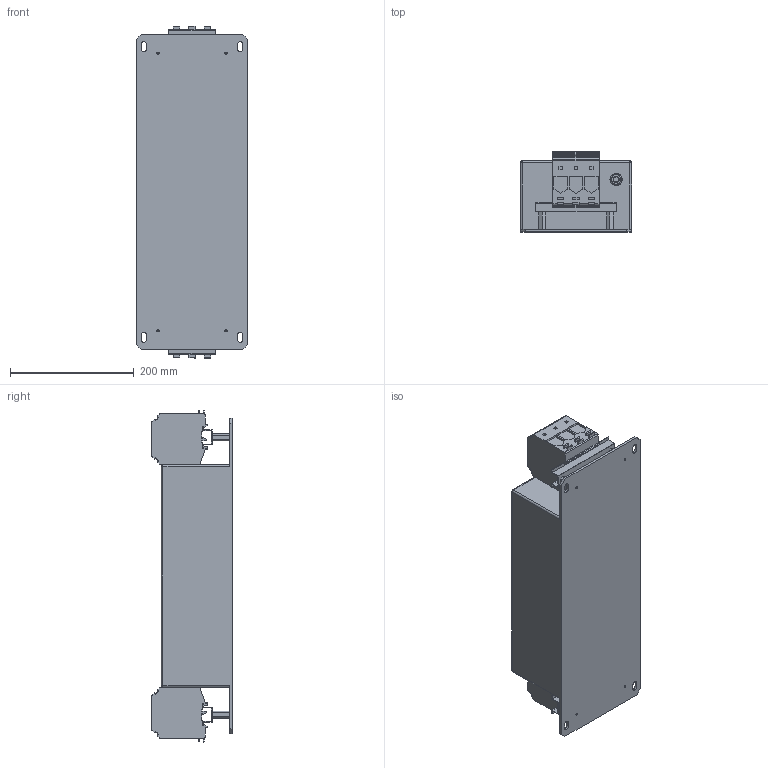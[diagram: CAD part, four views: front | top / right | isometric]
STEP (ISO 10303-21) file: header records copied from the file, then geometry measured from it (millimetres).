
FILE_DESCRIPTION((''),'2;1');
FILE_NAME('P:\Construction\Filter_Marketing\FN\FN351H\FN351H-180-36\FN351H-180-36.stp','2014-04-22T11:11:44',('Samuel.Meier'),(''),'Autodesk Inventor 2013','Autodesk Inventor 2013','');
FILE_SCHEMA(('AUTOMOTIVE_DESIGN { 1 2 10303 214 0 1 1 1 }'));
Length unit declared in the file: millimetre
Products named in the file (1): FN351H-180-36
Bounding box: 180 x 130 x 537.15 mm (x, y, z)
Volume: 8582579.1 mm3; surface area: 422853.7 mm2
Topology: 1 solids, 17 shells, 634 faces, 1620 edges, 1070 vertices
Faces by surface type: plane 466, cylinder 132, bspline 24, cone 8, sphere 4
Full cylindrical faces by diameter (mm): 3 x6, 3.5 x4, 4 x8, 8.536 x12, 10 x4, 10.5 x2, 16.5 x2, 20 x2
Entity records: 19376 total; most frequent: CARTESIAN_POINT 3629, ORIENTED_EDGE 3136, DIRECTION 3012, EDGE_CURVE 1568, VECTOR 1202, LINE 1202, VERTEX_POINT 1066, AXIS2_PLACEMENT_3D 905
